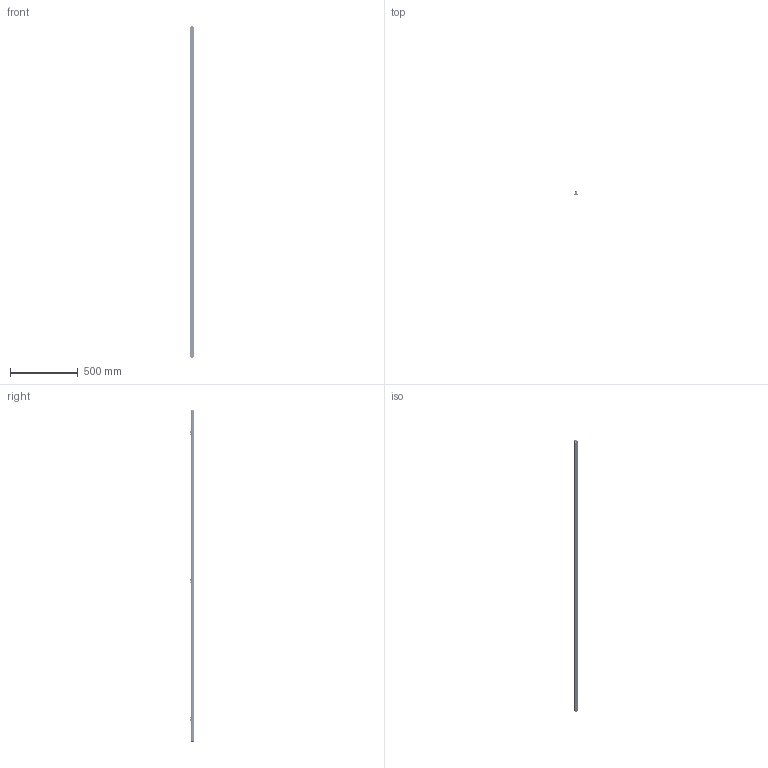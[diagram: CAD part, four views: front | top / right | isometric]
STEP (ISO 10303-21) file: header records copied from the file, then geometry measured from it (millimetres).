
FILE_DESCRIPTION (( 'STEP AP214' ), '1' );
FILE_NAME ('WG-20LDL-RBT Step.STEP', '2023-02-15T16:30:44', ( '' ), ( '' ), 'SwSTEP 2.0', 'SolidWorks 2021', '' );
FILE_SCHEMA (( 'AUTOMOTIVE_DESIGN' ));
Length unit declared in the file: inch
Products named in the file (15): 610-20563_Low Power 3.2 W-ft; 610-20543-LUXEON 3014_LUXEON 3014; 710-10341-300_95438in (8ft G9); 710-10012-400_96000; 750-10054-300; 610-20553-LED BOARD-99_BOARD-99mm; 610-20553_Low Power 3.2 W-ft; 720-10017-400_Bent; 720-10018-300; 320-10020-101_90272A531; 320-10024-101_94564A065; 320-10023-101_93878A106; WG-20LDL-RBT Step; 610-20563-LED BOARD-224_BOARD-224 mm; 610-20543-BCR401U LED DRIVER_BCR401U OR BCR402U
Assembly tree (159 placements, depth 3):
  WG-20LDL-RBT Step
    710-10341-300_95438in (8ft G9)
    610-20563_Low Power 3.2 W-ft  x10
      610-20563-LED BOARD-224_BOARD-224 mm
      610-20543-LUXEON 3014_LUXEON 3014
      610-20543-BCR401U LED DRIVER_BCR401U OR BCR402U
    610-20553_Low Power 3.2 W-ft
      610-20553-LED BOARD-99_BOARD-99mm
      610-20543-LUXEON 3014_LUXEON 3014  x28
      610-20543-BCR401U LED DRIVER_BCR401U OR BCR402U  x4
    710-10012-400_96000
    720-10018-300  x2
    320-10024-101_94564A065
    720-10017-400_Bent  x24
    320-10020-101_90272A531  x6
    320-10023-101_93878A106  x4
    750-10054-300  x3
Bounding box: 30.99 x 33.81 x 2450.9 mm (x, y, z)
Volume: 458091.6 mm3; surface area: 638964.9 mm2
Topology: 805 solids, 805 shells, 56727 faces, 158829 edges, 104641 vertices
Faces by surface type: plane 32859, cylinder 21500, bspline 1992, sphere 168, cone 156, torus 52
Entity records: 63542 total; most frequent: CARTESIAN_POINT 28221, ORIENTED_EDGE 7536, DIRECTION 6187, EDGE_CURVE 3768, VERTEX_POINT 2420, AXIS2_PLACEMENT_3D 2071, VECTOR 2045, LINE 2045
